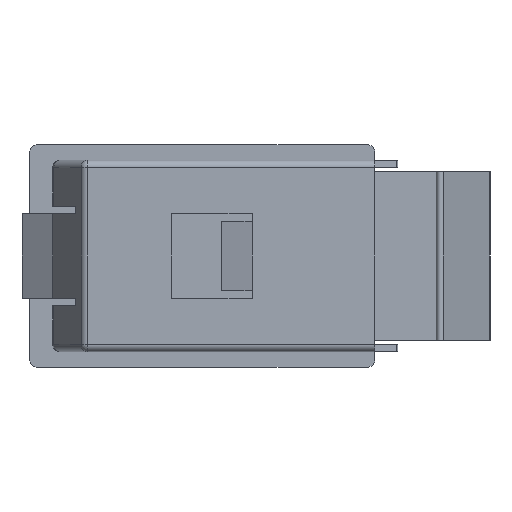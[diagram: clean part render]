
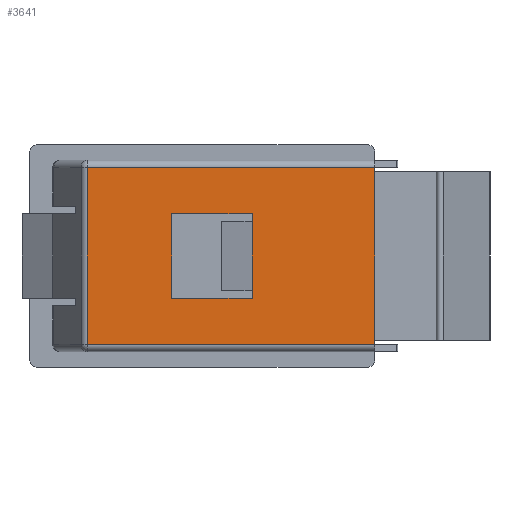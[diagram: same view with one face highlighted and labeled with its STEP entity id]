
A CAD part, front view. The second image highlights one B-rep face of the part: STEP entity #3641.
In plain terms, the highlighted planar face has unit normal (0, -1, 0).
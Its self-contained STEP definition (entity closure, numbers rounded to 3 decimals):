
#8 = DIRECTION ( 'NONE',  ( 1., 0., 0. ) ) ;
#63 = ORIENTED_EDGE ( 'NONE', *, *, #2782, .T. ) ;
#101 = ORIENTED_EDGE ( 'NONE', *, *, #172, .F. ) ;
#171 = VECTOR ( 'NONE', #3101, 1000. ) ;
#172 = EDGE_CURVE ( 'NONE', #1893, #2629, #1045, .T. ) ;
#176 = LINE ( 'NONE', #383, #1747 ) ;
#200 = VECTOR ( 'NONE', #930, 1000. ) ;
#233 = VERTEX_POINT ( 'NONE', #1462 ) ;
#303 = CARTESIAN_POINT ( 'NONE',  ( 0., -13.5, 1. ) ) ;
#304 = CARTESIAN_POINT ( 'NONE',  ( 15.5, -13.5, 18. ) ) ;
#383 = CARTESIAN_POINT ( 'NONE',  ( 4., -13.5, 24. ) ) ;
#441 = ORIENTED_EDGE ( 'NONE', *, *, #3274, .F. ) ;
#466 = DIRECTION ( 'NONE',  ( 1., 0., 0. ) ) ;
#575 = CARTESIAN_POINT ( 'NONE',  ( 42., -13.5, 1. ) ) ;
#584 = CARTESIAN_POINT ( 'NONE',  ( 15.5, -13.5, 7. ) ) ;
#656 = ORIENTED_EDGE ( 'NONE', *, *, #1829, .T. ) ;
#788 = DIRECTION ( 'NONE',  ( 0., 0., -1. ) ) ;
#797 = EDGE_LOOP ( 'NONE', ( #2915, #63, #3839, #656 ) ) ;
#889 = EDGE_CURVE ( 'NONE', #2629, #1148, #3266, .T. ) ;
#909 = CARTESIAN_POINT ( 'NONE',  ( 15.5, -13.5, 18. ) ) ;
#921 = CARTESIAN_POINT ( 'NONE',  ( 4.535, -13.5, 24. ) ) ;
#930 = DIRECTION ( 'NONE',  ( -1., 0., 0. ) ) ;
#950 = AXIS2_PLACEMENT_3D ( 'NONE', #2930, #2012, #3539 ) ;
#958 = CARTESIAN_POINT ( 'NONE',  ( 26., -13.5, 18. ) ) ;
#1013 = CARTESIAN_POINT ( 'NONE',  ( 15.5, -13.5, 18. ) ) ;
#1014 = LINE ( 'NONE', #958, #171 ) ;
#1029 = CARTESIAN_POINT ( 'NONE',  ( 15.5, -13.5, 7. ) ) ;
#1045 = LINE ( 'NONE', #1013, #200 ) ;
#1120 = DIRECTION ( 'NONE',  ( 0., 0., -1. ) ) ;
#1148 = VERTEX_POINT ( 'NONE', #1029 ) ;
#1213 = VECTOR ( 'NONE', #788, 1000. ) ;
#1338 = VERTEX_POINT ( 'NONE', #921 ) ;
#1386 = VECTOR ( 'NONE', #2189, 1000. ) ;
#1414 = CARTESIAN_POINT ( 'NONE',  ( 26., -13.5, 18. ) ) ;
#1462 = CARTESIAN_POINT ( 'NONE',  ( 26., -13.5, 7. ) ) ;
#1466 = VECTOR ( 'NONE', #1120, 1000. ) ;
#1597 = EDGE_CURVE ( 'NONE', #1148, #233, #3417, .T. ) ;
#1747 = VECTOR ( 'NONE', #3458, 1000. ) ;
#1829 = EDGE_CURVE ( 'NONE', #3536, #3881, #3563, .T. ) ;
#1891 = EDGE_LOOP ( 'NONE', ( #2785, #3677, #101, #441 ) ) ;
#1893 = VERTEX_POINT ( 'NONE', #1414 ) ;
#1902 = VECTOR ( 'NONE', #466, 1000. ) ;
#1960 = EDGE_CURVE ( 'NONE', #3600, #3881, #3791, .T. ) ;
#1979 = CARTESIAN_POINT ( 'NONE',  ( 42., -13.5, 24. ) ) ;
#2012 = DIRECTION ( 'NONE',  ( 0., 1., 0. ) ) ;
#2112 = FACE_OUTER_BOUND ( 'NONE', #797, .T. ) ;
#2164 = CARTESIAN_POINT ( 'NONE',  ( 42., -13.5, 25. ) ) ;
#2189 = DIRECTION ( 'NONE',  ( 0., 0., -1. ) ) ;
#2317 = EDGE_CURVE ( 'NONE', #1338, #3536, #2835, .T. ) ;
#2629 = VERTEX_POINT ( 'NONE', #304 ) ;
#2750 = VECTOR ( 'NONE', #8, 1000. ) ;
#2782 = EDGE_CURVE ( 'NONE', #3600, #1338, #176, .T. ) ;
#2785 = ORIENTED_EDGE ( 'NONE', *, *, #1597, .F. ) ;
#2835 = LINE ( 'NONE', #2918, #1213 ) ;
#2915 = ORIENTED_EDGE ( 'NONE', *, *, #1960, .F. ) ;
#2918 = CARTESIAN_POINT ( 'NONE',  ( 4.535, -13.5, 25. ) ) ;
#2930 = CARTESIAN_POINT ( 'NONE',  ( 0., -13.5, 25. ) ) ;
#3101 = DIRECTION ( 'NONE',  ( 0., 0., 1. ) ) ;
#3237 = PLANE ( 'NONE',  #950 ) ;
#3266 = LINE ( 'NONE', #909, #1466 ) ;
#3274 = EDGE_CURVE ( 'NONE', #233, #1893, #1014, .T. ) ;
#3417 = LINE ( 'NONE', #584, #1902 ) ;
#3458 = DIRECTION ( 'NONE',  ( -1., 0., 0. ) ) ;
#3467 = CARTESIAN_POINT ( 'NONE',  ( 4.535, -13.5, 1. ) ) ;
#3536 = VERTEX_POINT ( 'NONE', #3467 ) ;
#3539 = DIRECTION ( 'NONE',  ( 0., 0., 1. ) ) ;
#3563 = LINE ( 'NONE', #303, #2750 ) ;
#3600 = VERTEX_POINT ( 'NONE', #1979 ) ;
#3641 = ADVANCED_FACE ( 'NONE', ( #3717, #2112 ), #3237, .F. ) ;
#3677 = ORIENTED_EDGE ( 'NONE', *, *, #889, .F. ) ;
#3717 = FACE_BOUND ( 'NONE', #1891, .T. ) ;
#3791 = LINE ( 'NONE', #2164, #1386 ) ;
#3839 = ORIENTED_EDGE ( 'NONE', *, *, #2317, .T. ) ;
#3881 = VERTEX_POINT ( 'NONE', #575 ) ;
